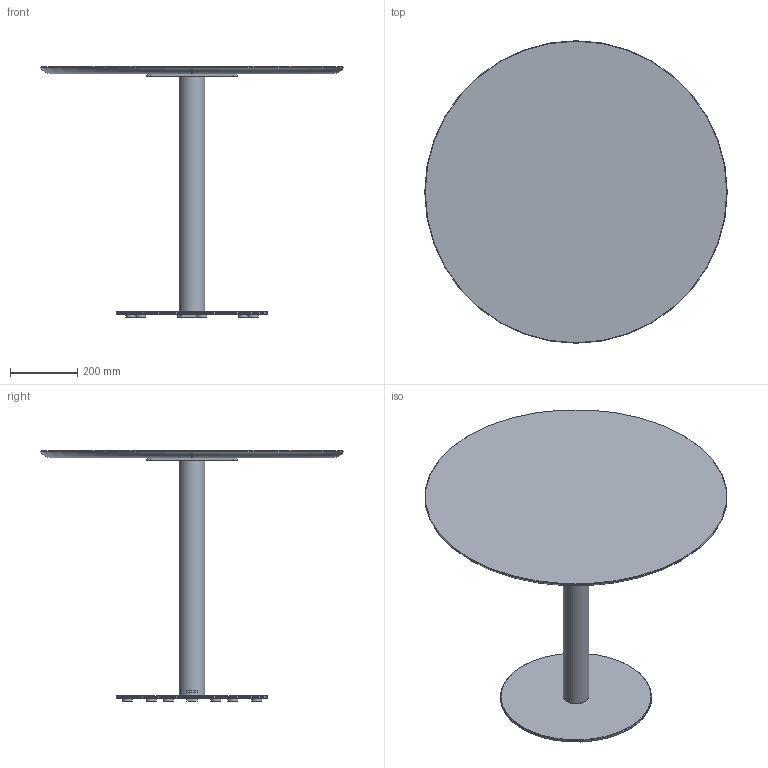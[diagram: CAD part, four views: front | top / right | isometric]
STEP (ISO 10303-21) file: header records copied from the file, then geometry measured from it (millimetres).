
FILE_DESCRIPTION( ('This file contains a STEP AP42 implementation' ,'as created by ZW3D STEP Interface translator.') ,'2;1' );
FILE_NAME( 'Henri - B_Rond - F1 - M3 - 800 x 800 x 750.stp' ,'24 912.151224', (''), ('ZWCAD Software Co.'), 'Version 1.0', 'ZW3D to STEP translator', '' );
FILE_SCHEMA(('AUTOMOTIVE_DESIGN { 1 0 10303 214 1 1 1 1 }'));
Length unit declared in the file: millimetre
Products named in the file (15): 0; PIED BISTROT PARAMETRIQUE_; COLONNE ACIER Ø76 V.02_; TUB-D076-02_; PLA-R76B-01_; SOCLE ACIER C Ø450 V.02_; SCL-D450-02_; PLA-R30A-01_; PLA-R30A-01; CROIX ACIER 370 V.02_; CRX-X370-02_; WUERTH 0276063020 Euro-screw 6.3x2 Verzinkt_; PLATEAU BISTROT PARAMETRIQUE_; insert_m6_13_; insert_m6_13
Assembly tree (24 placements, depth 3):
  0
  PIED BISTROT PARAMETRIQUE_
    COLONNE ACIER Ø76 V.02_
      TUB-D076-02_
      PLA-R76B-01_  x2
    SOCLE ACIER C Ø450 V.02_
      SCL-D450-02_
      PLA-R30A-01_
      PLA-R30A-01  x5
    CROIX ACIER 370 V.02_
      CRX-X370-02_
    WUERTH 0276063020 Euro-screw 6.3x2 Verzinkt_
    PLATEAU BISTROT PARAMETRIQUE_
      insert_m6_13_  x2
      insert_m6_13  x6
Bounding box: 900 x 900 x 744 mm (x, y, z)
Volume: 14519921.5 mm3; surface area: 2149911.5 mm2
Topology: 21 solids, 21 shells, 524 faces, 1273 edges, 802 vertices
Faces by surface type: plane 250, bspline 121, cylinder 103, cone 45, torus 5
Full cylindrical faces by diameter (mm): 4.88 x1, 6 x8, 6.3 x1, 8 x47, 12 x2, 14 x2, 30 x6, 72 x1, 76 x1, 450 x1
Entity records: 12786 total; most frequent: CARTESIAN_POINT 3716, ORIENTED_EDGE 1660, DIRECTION 1537, EDGE_CURVE 830, VERTEX_POINT 530, AXIS2_PLACEMENT_3D 515, VECTOR 507, LINE 507
